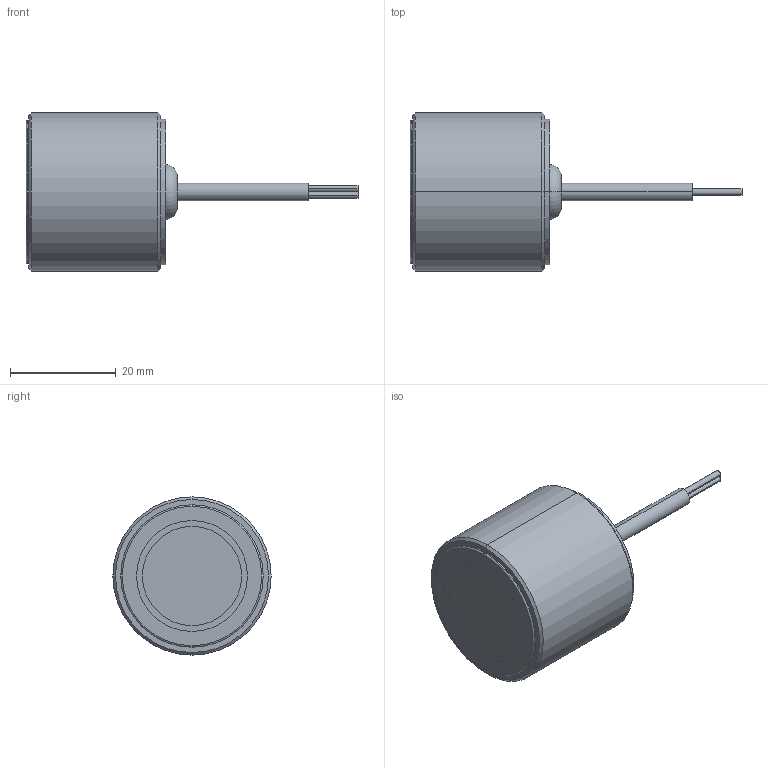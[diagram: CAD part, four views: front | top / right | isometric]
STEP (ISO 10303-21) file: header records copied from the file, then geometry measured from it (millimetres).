
FILE_DESCRIPTION((''),'2;1');
FILE_NAME('C:\Dokumente und Einstellungen\Kramp\Eigene Dateien\Microsonic non IPart\dbk5\STP\dbk-5_Sender_M30_K1.stp','2005-08-05T08:56:46',('Kramp'),(''),'Autodesk Inventor 7','Autodesk Inventor 7','');
FILE_SCHEMA(('AUTOMOTIVE_DESIGN { 1 0 10303 214 1 1 1 1 }'));
Length unit declared in the file: millimetre
Products named in the file (1): dbk-5_Sender_M30_K1
Bounding box: 62.92 x 30 x 30 mm (x, y, z)
Volume: 18927.5 mm3; surface area: 4208.3 mm2
Topology: 1 solids, 1 shells, 36 faces, 72 edges, 44 vertices
Faces by surface type: cylinder 18, plane 10, cone 4, torus 4
Entity records: 975 total; most frequent: DIRECTION 196, CARTESIAN_POINT 153, ORIENTED_EDGE 144, AXIS2_PLACEMENT_3D 87, EDGE_CURVE 72, CIRCLE 50, VERTEX_POINT 44, EDGE_LOOP 43
